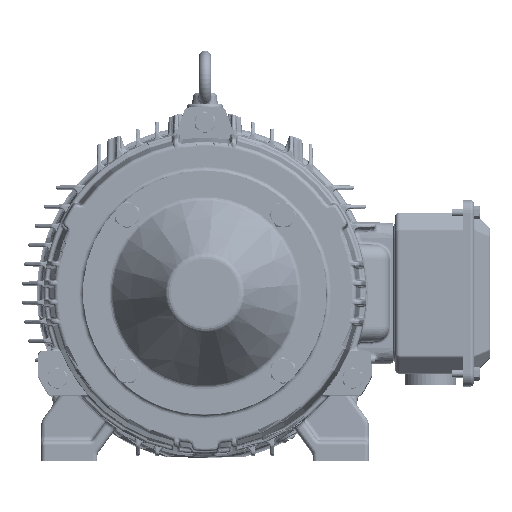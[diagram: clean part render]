
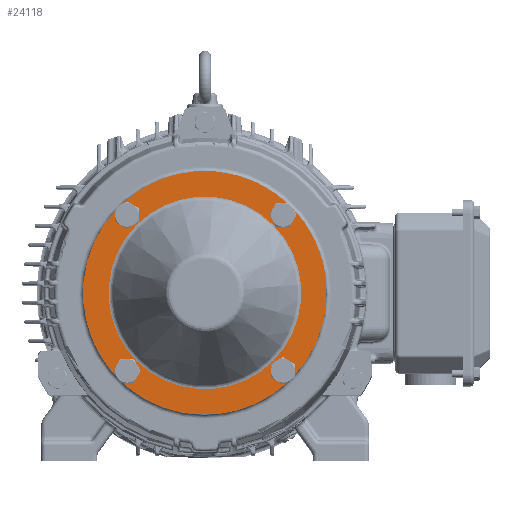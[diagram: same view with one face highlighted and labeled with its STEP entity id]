
A CAD part, top view. The second image highlights one B-rep face of the part: STEP entity #24118.
In plain terms, the highlighted planar face has unit normal (0, 0, 1).
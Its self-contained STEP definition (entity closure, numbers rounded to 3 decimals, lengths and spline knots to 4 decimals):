
#1476 = EDGE_CURVE ( 'NONE', #49532, #226748, #32993, .T. ) ;
#1842 = VERTEX_POINT ( 'NONE', #217240 ) ;
#4954 = EDGE_LOOP ( 'NONE', ( #74176, #264163 ) ) ;
#5579 = VERTEX_POINT ( 'NONE', #47521 ) ;
#7462 = EDGE_LOOP ( 'NONE', ( #227034, #215541 ) ) ;
#12122 = CARTESIAN_POINT ( 'NONE',  ( -1.8152, -1.8152, 5.0596 ) ) ;
#19245 = AXIS2_PLACEMENT_3D ( 'NONE', #170734, #250098, #111521 ) ;
#21807 = CARTESIAN_POINT ( 'NONE',  ( 0., 0., 5.0596 ) ) ;
#22039 = DIRECTION ( 'NONE',  ( 0.707, 0.707, 0. ) ) ;
#22882 = DIRECTION ( 'NONE',  ( 0., 0., 1. ) ) ;
#24118 = ADVANCED_FACE ( 'NONE', ( #238454, #34119, #263904, #176605, #79727, #36754 ), #161732, .T. ) ;
#25667 = ORIENTED_EDGE ( 'NONE', *, *, #223999, .T. ) ;
#32236 = VERTEX_POINT ( 'NONE', #94838 ) ;
#32993 = CIRCLE ( 'NONE', #222083, 2.5671 ) ;
#34119 = FACE_BOUND ( 'NONE', #4954, .T. ) ;
#34612 = DIRECTION ( 'NONE',  ( 0.707, 0.707, 0. ) ) ;
#36279 = CIRCLE ( 'NONE', #19245, 3.25 ) ;
#36754 = FACE_BOUND ( 'NONE', #207754, .T. ) ;
#38229 = CIRCLE ( 'NONE', #210159, 0.2031 ) ;
#39880 = CIRCLE ( 'NONE', #104151, 0.2031 ) ;
#41282 = CIRCLE ( 'NONE', #92870, 0.2031 ) ;
#46088 = EDGE_CURVE ( 'NONE', #175315, #246191, #211831, .T. ) ;
#47003 = DIRECTION ( 'NONE',  ( 0.707, 0.707, 0. ) ) ;
#47521 = CARTESIAN_POINT ( 'NONE',  ( -2.2981, -2.2981, 5.0596 ) ) ;
#49532 = VERTEX_POINT ( 'NONE', #243377 ) ;
#52295 = DIRECTION ( 'NONE',  ( 0.707, 0.707, 0. ) ) ;
#54806 = CARTESIAN_POINT ( 'NONE',  ( 2.0771, 2.0771, 5.0596 ) ) ;
#55125 = CARTESIAN_POINT ( 'NONE',  ( -1.9335, -1.9335, 5.0596 ) ) ;
#61153 = DIRECTION ( 'NONE',  ( 0., 0., 1. ) ) ;
#61280 = CARTESIAN_POINT ( 'NONE',  ( -2.2208, -2.2208, 5.0596 ) ) ;
#62724 = ORIENTED_EDGE ( 'NONE', *, *, #252682, .F. ) ;
#66710 = ORIENTED_EDGE ( 'NONE', *, *, #176862, .T. ) ;
#68125 = CARTESIAN_POINT ( 'NONE',  ( -1.9335, 2.2208, 5.0596 ) ) ;
#72043 = DIRECTION ( 'NONE',  ( 0., 0., 1. ) ) ;
#74176 = ORIENTED_EDGE ( 'NONE', *, *, #251755, .F. ) ;
#74446 = CARTESIAN_POINT ( 'NONE',  ( 2.2981, 2.2981, 5.0596 ) ) ;
#79727 = FACE_OUTER_BOUND ( 'NONE', #106518, .T. ) ;
#80617 = DIRECTION ( 'NONE',  ( 0.707, 0.707, 0. ) ) ;
#80678 = DIRECTION ( 'NONE',  ( 0., 0., 1. ) ) ;
#87509 = DIRECTION ( 'NONE',  ( 0.707, 0.707, 0. ) ) ;
#89212 = CIRCLE ( 'NONE', #127830, 2.5671 ) ;
#91940 = CIRCLE ( 'NONE', #259474, 0.2031 ) ;
#92870 = AXIS2_PLACEMENT_3D ( 'NONE', #200036, #259210, #52295 ) ;
#94838 = CARTESIAN_POINT ( 'NONE',  ( 2.2208, -1.9335, 5.0596 ) ) ;
#94970 = AXIS2_PLACEMENT_3D ( 'NONE', #74446, #117421, #116107 ) ;
#95034 = DIRECTION ( 'NONE',  ( 0.707, 0.707, 0. ) ) ;
#100719 = CIRCLE ( 'NONE', #139337, 0.2031 ) ;
#103407 = CARTESIAN_POINT ( 'NONE',  ( 0., 0., 5.0596 ) ) ;
#104094 = CARTESIAN_POINT ( 'NONE',  ( -2.0771, 2.0771, 5.0596 ) ) ;
#104151 = AXIS2_PLACEMENT_3D ( 'NONE', #188644, #109244, #22039 ) ;
#104801 = CIRCLE ( 'NONE', #147797, 0.2031 ) ;
#106518 = EDGE_LOOP ( 'NONE', ( #25667, #66710 ) ) ;
#108651 = CIRCLE ( 'NONE', #263368, 0.2031 ) ;
#109244 = DIRECTION ( 'NONE',  ( 0., 0., 1. ) ) ;
#109807 = ORIENTED_EDGE ( 'NONE', *, *, #46088, .F. ) ;
#110247 = ORIENTED_EDGE ( 'NONE', *, *, #177231, .F. ) ;
#111521 = DIRECTION ( 'NONE',  ( 0.707, 0.707, 0. ) ) ;
#116107 = DIRECTION ( 'NONE',  ( 0.707, 0.707, 0. ) ) ;
#117421 = DIRECTION ( 'NONE',  ( 0., 0., 1. ) ) ;
#121672 = VERTEX_POINT ( 'NONE', #68125 ) ;
#124013 = EDGE_CURVE ( 'NONE', #260529, #32236, #41282, .T. ) ;
#127532 = CARTESIAN_POINT ( 'NONE',  ( 2.2981, 2.2981, 5.0596 ) ) ;
#127830 = AXIS2_PLACEMENT_3D ( 'NONE', #161353, #80678, #246006 ) ;
#139337 = AXIS2_PLACEMENT_3D ( 'NONE', #256389, #158208, #95034 ) ;
#143109 = DIRECTION ( 'NONE',  ( 0.707, 0.707, 0. ) ) ;
#147797 = AXIS2_PLACEMENT_3D ( 'NONE', #211901, #72043, #154028 ) ;
#149371 = VERTEX_POINT ( 'NONE', #127532 ) ;
#153915 = CARTESIAN_POINT ( 'NONE',  ( 1.9335, 1.9335, 5.0596 ) ) ;
#154028 = DIRECTION ( 'NONE',  ( 0.707, 0.707, 0. ) ) ;
#158208 = DIRECTION ( 'NONE',  ( 0., 0., 1. ) ) ;
#158262 = DIRECTION ( 'NONE',  ( 0., 0., 1. ) ) ;
#158746 = EDGE_LOOP ( 'NONE', ( #109807, #229327 ) ) ;
#159379 = EDGE_LOOP ( 'NONE', ( #110247, #62724 ) ) ;
#159443 = CIRCLE ( 'NONE', #249648, 3.25 ) ;
#161353 = CARTESIAN_POINT ( 'NONE',  ( 0., 0., 5.0596 ) ) ;
#161732 = PLANE ( 'NONE',  #94970 ) ;
#161846 = DIRECTION ( 'NONE',  ( 0., 0., 1. ) ) ;
#164484 = ORIENTED_EDGE ( 'NONE', *, *, #261794, .F. ) ;
#166893 = DIRECTION ( 'NONE',  ( 0., 0., 1. ) ) ;
#170734 = CARTESIAN_POINT ( 'NONE',  ( 0., 0., 5.0596 ) ) ;
#175315 = VERTEX_POINT ( 'NONE', #233656 ) ;
#176605 = FACE_BOUND ( 'NONE', #158746, .T. ) ;
#176862 = EDGE_CURVE ( 'NONE', #5579, #149371, #36279, .T. ) ;
#177231 = EDGE_CURVE ( 'NONE', #121672, #1842, #100719, .T. ) ;
#183340 = DIRECTION ( 'NONE',  ( 0.707, 0.707, 0. ) ) ;
#188644 = CARTESIAN_POINT ( 'NONE',  ( 2.0771, 2.0771, 5.0596 ) ) ;
#200036 = CARTESIAN_POINT ( 'NONE',  ( 2.0771, -2.0771, 5.0596 ) ) ;
#200858 = CARTESIAN_POINT ( 'NONE',  ( 2.0771, -2.0771, 5.0596 ) ) ;
#207754 = EDGE_LOOP ( 'NONE', ( #261926, #164484 ) ) ;
#210159 = AXIS2_PLACEMENT_3D ( 'NONE', #251294, #22882, #47003 ) ;
#211831 = CIRCLE ( 'NONE', #241780, 0.2031 ) ;
#211901 = CARTESIAN_POINT ( 'NONE',  ( -2.0771, -2.0771, 5.0596 ) ) ;
#215541 = ORIENTED_EDGE ( 'NONE', *, *, #252596, .F. ) ;
#217240 = CARTESIAN_POINT ( 'NONE',  ( -2.2208, 1.9335, 5.0596 ) ) ;
#222083 = AXIS2_PLACEMENT_3D ( 'NONE', #21807, #166893, #87509 ) ;
#223999 = EDGE_CURVE ( 'NONE', #149371, #5579, #159443, .T. ) ;
#226420 = EDGE_CURVE ( 'NONE', #246191, #175315, #39880, .T. ) ;
#226748 = VERTEX_POINT ( 'NONE', #12122 ) ;
#227034 = ORIENTED_EDGE ( 'NONE', *, *, #243640, .F. ) ;
#229327 = ORIENTED_EDGE ( 'NONE', *, *, #226420, .F. ) ;
#232924 = VERTEX_POINT ( 'NONE', #61280 ) ;
#233656 = CARTESIAN_POINT ( 'NONE',  ( 2.2208, 2.2208, 5.0596 ) ) ;
#238454 = FACE_BOUND ( 'NONE', #7462, .T. ) ;
#241780 = AXIS2_PLACEMENT_3D ( 'NONE', #54806, #158262, #34612 ) ;
#243377 = CARTESIAN_POINT ( 'NONE',  ( 1.8152, 1.8152, 5.0596 ) ) ;
#243640 = EDGE_CURVE ( 'NONE', #264739, #232924, #38229, .T. ) ;
#245945 = DIRECTION ( 'NONE',  ( 0., 0., 1. ) ) ;
#246006 = DIRECTION ( 'NONE',  ( 0.707, 0.707, 0. ) ) ;
#246191 = VERTEX_POINT ( 'NONE', #153915 ) ;
#249648 = AXIS2_PLACEMENT_3D ( 'NONE', #103407, #245945, #80617 ) ;
#250098 = DIRECTION ( 'NONE',  ( 0., 0., 1. ) ) ;
#251294 = CARTESIAN_POINT ( 'NONE',  ( -2.0771, -2.0771, 5.0596 ) ) ;
#251755 = EDGE_CURVE ( 'NONE', #32236, #260529, #108651, .T. ) ;
#252596 = EDGE_CURVE ( 'NONE', #232924, #264739, #104801, .T. ) ;
#252682 = EDGE_CURVE ( 'NONE', #1842, #121672, #91940, .T. ) ;
#256389 = CARTESIAN_POINT ( 'NONE',  ( -2.0771, 2.0771, 5.0596 ) ) ;
#259210 = DIRECTION ( 'NONE',  ( 0., 0., 1. ) ) ;
#259474 = AXIS2_PLACEMENT_3D ( 'NONE', #104094, #61153, #143109 ) ;
#260529 = VERTEX_POINT ( 'NONE', #261941 ) ;
#261794 = EDGE_CURVE ( 'NONE', #226748, #49532, #89212, .T. ) ;
#261926 = ORIENTED_EDGE ( 'NONE', *, *, #1476, .F. ) ;
#261941 = CARTESIAN_POINT ( 'NONE',  ( 1.9335, -2.2208, 5.0596 ) ) ;
#263368 = AXIS2_PLACEMENT_3D ( 'NONE', #200858, #161846, #183340 ) ;
#263904 = FACE_BOUND ( 'NONE', #159379, .T. ) ;
#264163 = ORIENTED_EDGE ( 'NONE', *, *, #124013, .F. ) ;
#264739 = VERTEX_POINT ( 'NONE', #55125 ) ;
